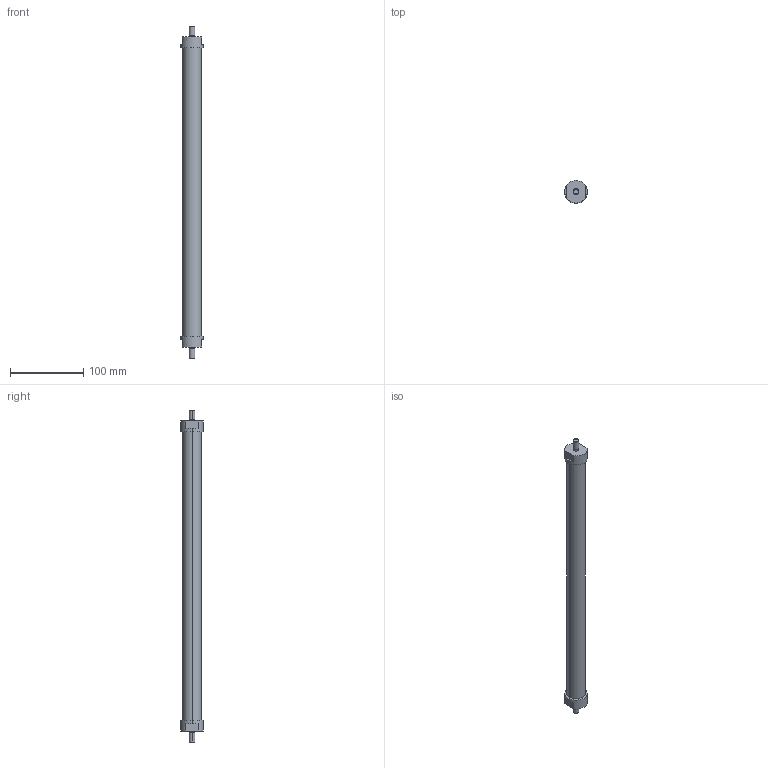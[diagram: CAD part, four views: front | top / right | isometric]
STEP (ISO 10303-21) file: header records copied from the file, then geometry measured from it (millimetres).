
FILE_DESCRIPTION(('STEP AP214'),'1');
FILE_NAME('ETT-R050N434.stp','2015-02-02T15:41:00',(' '),(' '),'Spatial InterOp 3D',' ',' ');
FILE_SCHEMA(('automotive_design'));
Length unit declared in the file: metre
Products named in the file (3): 1; 2; 3
Bounding box: 31 x 31 x 454 mm (x, y, z)
Volume: 216410.3 mm3; surface area: 37172 mm2
Topology: 1 solids, 7 shells, 30 faces, 81 edges, 63 vertices
Faces by surface type: plane 16, cylinder 14
Entity records: 1295 total; most frequent: DIRECTION 194, CARTESIAN_POINT 177, ORIENTED_EDGE 138, EDGE_CURVE 81, AXIS2_PLACEMENT_3D 80, VERTEX_POINT 63, CIRCLE 47, EDGE_LOOP 36
